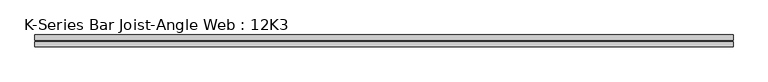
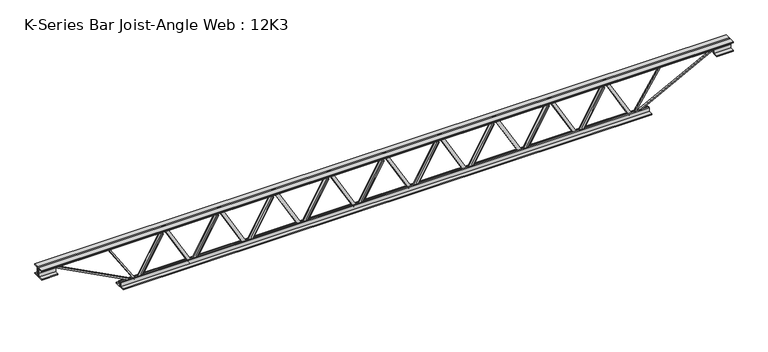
"""IFC4 building model written with IfcOpenShell, lengths in millimetres: beam geometry, K-Series Bar Joist-Angle Web : 12K3."""

from ifc_helpers import new_model, si_unit, frame, origin, place, context, project, spatial, polyline, outline, extrude, faceted_brep, source, transform, mapped, element, save


def k_series_bar_joist_angle_web_12k3_cd6388da(model_context):
    return source(origin(), model_context, "Body", "SolidModel", [
        extrude(outline(polyline([(-4.7625, 4.7625), (-4.7625, 0.0), (-17.4625, 0.0), (-17.4625, 4.7625), (-4.7625, 4.7625)])), frame((1173.275908, 0.0, -114.3), z_axis=(-0.49566648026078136, 0.0, 0.8685129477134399), x_axis=(0.0, -1.0, 0.0)), (0.0, 0.0, 1.0), 263.2085113),
        extrude(outline(polyline([(-149.225, 1205.0888889), (-130.175, 1205.0888889), (-130.175, 1204.2699253), (149.225, 1044.8143698), (149.225, 1026.5833333), (130.175, 1026.5833333), (130.175, 1033.7522969), (-149.225, 1193.2078524), (-149.225, 1205.0888889)])), frame((0.0, 0.0, 0.0), z_axis=(0.0, 1.0, 0.0), x_axis=(0.0, 0.0, 1.0)), (0.0, 0.0, 1.0), 4.7625),
        faceted_brep([(860.7777778, 0.0, -130.175), (860.7777778, 0.0, -149.225), (860.7777778, -4.7625, -149.225), (860.7777778, -4.7625, -130.175), (861.5967413, 0.0, -130.175), (1021.0522969, 0.0, 149.225), (1039.2833333, 0.0, 149.225), (1039.2833333, 0.0, 130.175), (1032.1143698, 0.0, 130.175), (872.6588142, 0.0, -149.225), (872.6588142, -4.7625, -149.225), (892.5907587, -4.7625, -114.3), (888.4544658, -4.7625, -111.9393884), (1018.9181021, -4.7625, 116.6606116), (1023.054395, -4.7625, 114.3), (1032.1143698, -4.7625, 130.175), (1039.2833333, -4.7625, 130.175), (1039.2833333, -4.7625, 149.225), (1021.0522969, -4.7625, 149.225), (861.5967413, -4.7625, -130.175), (1023.054395, -17.4625, 114.3), (892.5907587, -17.4625, -114.3), (888.4544658, -17.4625, -111.9393884), (1018.9181021, -17.4625, 116.6606116)], [[[0, 1, 2, 3]], [[1, 0, 4, 5, 6, 7, 8, 9]], [[2, 1, 9, 10]], [[3, 2, 10, 11, 12, 13, 14, 15, 16, 17, 18, 19]], [[0, 3, 19, 4]], [[9, 8, 15, 14, 20, 21, 11, 10]], [[5, 4, 19, 18]], [[7, 6, 17, 16]], [[8, 7, 16, 15]], [[6, 5, 18, 17]], [[21, 22, 12, 11]], [[20, 14, 13, 23]], [[22, 21, 20, 23]], [[12, 22, 23, 13]]]),
        extrude(outline(polyline([(-4.7625, 4.7625), (-4.7625, 0.0), (-17.4625, 0.0), (-17.4625, 4.7625), (-4.7625, 4.7625)])), frame((828.9647969, 0.0, -114.3), z_axis=(-0.49566648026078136, 0.0, 0.8685129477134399), x_axis=(0.0, -1.0, 0.0)), (0.0, 0.0, 1.0), 263.2085113),
        extrude(outline(polyline([(-149.225, 860.7777778), (-130.175, 860.7777778), (-130.175, 859.9588142), (149.225, 700.5032587), (149.225, 682.2722222), (130.175, 682.2722222), (130.175, 689.4411858), (-149.225, 848.8967413), (-149.225, 860.7777778)])), frame((0.0, 0.0, 0.0), z_axis=(0.0, 1.0, 0.0), x_axis=(0.0, 0.0, 1.0)), (0.0, 0.0, 1.0), 4.7625),
        faceted_brep([(516.4666667, 0.0, -130.175), (516.4666667, 0.0, -149.225), (516.4666667, -4.7625, -149.225), (516.4666667, -4.7625, -130.175), (517.2856302, 0.0, -130.175), (676.7411858, 0.0, 149.225), (694.9722222, 0.0, 149.225), (694.9722222, 0.0, 130.175), (687.8032587, 0.0, 130.175), (528.3477031, 0.0, -149.225), (528.3477031, -4.7625, -149.225), (548.2796476, -4.7625, -114.3), (544.1433547, -4.7625, -111.9393884), (674.606991, -4.7625, 116.6606116), (678.7432839, -4.7625, 114.3), (687.8032587, -4.7625, 130.175), (694.9722222, -4.7625, 130.175), (694.9722222, -4.7625, 149.225), (676.7411858, -4.7625, 149.225), (517.2856302, -4.7625, -130.175), (678.7432839, -17.4625, 114.3), (548.2796476, -17.4625, -114.3), (544.1433547, -17.4625, -111.9393884), (674.606991, -17.4625, 116.6606116)], [[[0, 1, 2, 3]], [[1, 0, 4, 5, 6, 7, 8, 9]], [[2, 1, 9, 10]], [[3, 2, 10, 11, 12, 13, 14, 15, 16, 17, 18, 19]], [[0, 3, 19, 4]], [[9, 8, 15, 14, 20, 21, 11, 10]], [[5, 4, 19, 18]], [[7, 6, 17, 16]], [[8, 7, 16, 15]], [[6, 5, 18, 17]], [[21, 22, 12, 11]], [[20, 14, 13, 23]], [[22, 21, 20, 23]], [[12, 22, 23, 13]]]),
        extrude(outline(polyline([(-4.7625, 4.7625), (-4.7625, 0.0), (-17.4625, 0.0), (-17.4625, 4.7625), (-4.7625, 4.7625)])), frame((484.6536858, 0.0, -114.3), z_axis=(-0.49566648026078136, 0.0, 0.8685129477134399), x_axis=(0.0, -1.0, 0.0)), (0.0, 0.0, 1.0), 263.2085113),
        extrude(outline(polyline([(-149.225, 516.4666667), (-130.175, 516.4666667), (-130.175, 515.6477031), (149.225, 356.1921476), (149.225, 337.9611111), (130.175, 337.9611111), (130.175, 345.1300747), (-149.225, 504.5856302), (-149.225, 516.4666667)])), frame((0.0, 0.0, 0.0), z_axis=(0.0, 1.0, 0.0), x_axis=(0.0, 0.0, 1.0)), (0.0, 0.0, 1.0), 4.7625),
        faceted_brep([(172.1555556, 0.0, -130.175), (172.1555556, 0.0, -149.225), (172.1555556, -4.7625, -149.225), (172.1555556, -4.7625, -130.175), (172.9745191, 0.0, -130.175), (332.4300747, 0.0, 149.225), (350.6611111, 0.0, 149.225), (350.6611111, 0.0, 130.175), (343.4921476, 0.0, 130.175), (184.036592, 0.0, -149.225), (184.036592, -4.7625, -149.225), (203.9685365, -4.7625, -114.3), (199.8322435, -4.7625, -111.9393884), (330.2958799, -4.7625, 116.6606116), (334.4321728, -4.7625, 114.3), (343.4921476, -4.7625, 130.175), (350.6611111, -4.7625, 130.175), (350.6611111, -4.7625, 149.225), (332.4300747, -4.7625, 149.225), (172.9745191, -4.7625, -130.175), (334.4321728, -17.4625, 114.3), (203.9685365, -17.4625, -114.3), (199.8322435, -17.4625, -111.9393884), (330.2958799, -17.4625, 116.6606116)], [[[0, 1, 2, 3]], [[1, 0, 4, 5, 6, 7, 8, 9]], [[2, 1, 9, 10]], [[3, 2, 10, 11, 12, 13, 14, 15, 16, 17, 18, 19]], [[0, 3, 19, 4]], [[9, 8, 15, 14, 20, 21, 11, 10]], [[5, 4, 19, 18]], [[7, 6, 17, 16]], [[8, 7, 16, 15]], [[6, 5, 18, 17]], [[21, 22, 12, 11]], [[20, 14, 13, 23]], [[22, 21, 20, 23]], [[12, 22, 23, 13]]]),
        extrude(outline(polyline([(-4.7625, 4.7625), (-4.7625, 0.0), (-17.4625, 0.0), (-17.4625, 4.7625), (-4.7625, 4.7625)])), frame((140.3425747, 0.0, -114.3), z_axis=(-0.49566648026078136, 0.0, 0.8685129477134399), x_axis=(0.0, -1.0, 0.0)), (0.0, 0.0, 1.0), 263.2085113),
        extrude(outline(polyline([(-149.225, 172.1555556), (-130.175, 172.1555556), (-130.175, 171.336592), (149.225, 11.8810365), (149.225, -6.35), (130.175, -6.35), (130.175, 0.8189635), (-149.225, 160.2745191), (-149.225, 172.1555556)])), frame((0.0, 0.0, 0.0), z_axis=(0.0, 1.0, 0.0), x_axis=(0.0, 0.0, 1.0)), (0.0, 0.0, 1.0), 4.7625),
        faceted_brep([(-172.1555556, 0.0, -130.175), (-172.1555556, 0.0, -149.225), (-172.1555556, -4.7625, -149.225), (-172.1555556, -4.7625, -130.175), (-171.336592, 0.0, -130.175), (-11.8810365, 0.0, 149.225), (6.35, 0.0, 149.225), (6.35, 0.0, 130.175), (-0.8189635, 0.0, 130.175), (-160.2745191, 0.0, -149.225), (-160.2745191, -4.7625, -149.225), (-140.3425747, -4.7625, -114.3), (-144.4788676, -4.7625, -111.9393884), (-14.0152312, -4.7625, 116.6606116), (-9.8789383, -4.7625, 114.3), (-0.8189635, -4.7625, 130.175), (6.35, -4.7625, 130.175), (6.35, -4.7625, 149.225), (-11.8810365, -4.7625, 149.225), (-171.336592, -4.7625, -130.175), (-9.8789383, -17.4625, 114.3), (-140.3425747, -17.4625, -114.3), (-144.4788676, -17.4625, -111.9393884), (-14.0152312, -17.4625, 116.6606116)], [[[0, 1, 2, 3]], [[1, 0, 4, 5, 6, 7, 8, 9]], [[2, 1, 9, 10]], [[3, 2, 10, 11, 12, 13, 14, 15, 16, 17, 18, 19]], [[0, 3, 19, 4]], [[9, 8, 15, 14, 20, 21, 11, 10]], [[5, 4, 19, 18]], [[7, 6, 17, 16]], [[8, 7, 16, 15]], [[6, 5, 18, 17]], [[21, 22, 12, 11]], [[20, 14, 13, 23]], [[22, 21, 20, 23]], [[12, 22, 23, 13]]]),
        extrude(outline(polyline([(-4.7625, 4.7625001), (-4.7625, 0.0), (-17.4625, 0.0), (-17.4625, 4.7625001), (-4.7625, 4.7625001)])), frame((-203.9685365, 0.0, -114.3), z_axis=(-0.49566648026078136, 0.0, 0.8685129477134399), x_axis=(0.0, -1.0, 0.0)), (0.0, 0.0, 1.0), 263.2085113),
        extrude(outline(polyline([(-149.225, -172.1555556), (-130.175, -172.1555556), (-130.175, -172.9745191), (149.225, -332.4300747), (149.225, -350.6611111), (130.175, -350.6611111), (130.175, -343.4921476), (-149.225, -184.036592), (-149.225, -172.1555556)])), frame((0.0, 0.0, 0.0), z_axis=(0.0, 1.0, 0.0), x_axis=(0.0, 0.0, 1.0)), (0.0, 0.0, 1.0), 4.7625),
        faceted_brep([(-516.4666667, 0.0, -130.175), (-516.4666667, 0.0, -149.225), (-516.4666667, -4.7625, -149.225), (-516.4666667, -4.7625, -130.175), (-515.6477031, 0.0, -130.175), (-356.1921476, 0.0, 149.225), (-337.9611111, 0.0, 149.225), (-337.9611111, 0.0, 130.175), (-345.1300747, 0.0, 130.175), (-504.5856302, 0.0, -149.225), (-504.5856302, -4.7625, -149.225), (-484.6536858, -4.7625, -114.3), (-488.7899787, -4.7625, -111.9393884), (-358.3263423, -4.7625, 116.6606116), (-354.1900494, -4.7625, 114.3), (-345.1300747, -4.7625, 130.175), (-337.9611111, -4.7625, 130.175), (-337.9611111, -4.7625, 149.225), (-356.1921476, -4.7625, 149.225), (-515.6477031, -4.7625, -130.175), (-354.1900494, -17.4625, 114.3), (-484.6536858, -17.4625, -114.3), (-488.7899787, -17.4625, -111.9393884), (-358.3263423, -17.4625, 116.6606116)], [[[0, 1, 2, 3]], [[1, 0, 4, 5, 6, 7, 8, 9]], [[2, 1, 9, 10]], [[3, 2, 10, 11, 12, 13, 14, 15, 16, 17, 18, 19]], [[0, 3, 19, 4]], [[9, 8, 15, 14, 20, 21, 11, 10]], [[5, 4, 19, 18]], [[7, 6, 17, 16]], [[8, 7, 16, 15]], [[6, 5, 18, 17]], [[21, 22, 12, 11]], [[20, 14, 13, 23]], [[22, 21, 20, 23]], [[12, 22, 23, 13]]]),
        extrude(outline(polyline([(-4.7625, 4.7625), (-4.7625, 0.0), (-17.4625, 0.0), (-17.4625, 4.7625), (-4.7625, 4.7625)])), frame((-548.2796476, 0.0, -114.3), z_axis=(-0.49566648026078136, 0.0, 0.8685129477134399), x_axis=(0.0, -1.0, 0.0)), (0.0, 0.0, 1.0), 263.2085113),
        extrude(outline(polyline([(-149.225, -516.4666667), (-130.175, -516.4666667), (-130.175, -517.2856302), (149.225, -676.7411858), (149.225, -694.9722222), (130.175, -694.9722222), (130.175, -687.8032587), (-149.225, -528.3477031), (-149.225, -516.4666667)])), frame((0.0, 0.0, 0.0), z_axis=(0.0, 1.0, 0.0), x_axis=(0.0, 0.0, 1.0)), (0.0, 0.0, 1.0), 4.7625),
        faceted_brep([(-860.7777778, 0.0, -130.175), (-860.7777778, 0.0, -149.225), (-860.7777778, -4.7625, -149.225), (-860.7777778, -4.7625, -130.175), (-859.9588142, 0.0, -130.175), (-700.5032587, 0.0, 149.225), (-682.2722222, 0.0, 149.225), (-682.2722222, 0.0, 130.175), (-689.4411858, 0.0, 130.175), (-848.8967413, 0.0, -149.225), (-848.8967413, -4.7625, -149.225), (-828.9647969, -4.7625, -114.3), (-833.1010898, -4.7625, -111.9393884), (-702.6374534, -4.7625, 116.6606116), (-698.5011605, -4.7625, 114.3), (-689.4411858, -4.7625, 130.175), (-682.2722222, -4.7625, 130.175), (-682.2722222, -4.7625, 149.225), (-700.5032587, -4.7625, 149.225), (-859.9588142, -4.7625, -130.175), (-698.5011605, -17.4625, 114.3), (-828.9647969, -17.4625, -114.3), (-833.1010898, -17.4625, -111.9393884), (-702.6374534, -17.4625, 116.6606116)], [[[0, 1, 2, 3]], [[1, 0, 4, 5, 6, 7, 8, 9]], [[2, 1, 9, 10]], [[3, 2, 10, 11, 12, 13, 14, 15, 16, 17, 18, 19]], [[0, 3, 19, 4]], [[9, 8, 15, 14, 20, 21, 11, 10]], [[5, 4, 19, 18]], [[7, 6, 17, 16]], [[8, 7, 16, 15]], [[6, 5, 18, 17]], [[21, 22, 12, 11]], [[20, 14, 13, 23]], [[22, 21, 20, 23]], [[12, 22, 23, 13]]]),
        extrude(outline(polyline([(-4.7625, 4.7625), (-4.7625, 0.0), (-17.4625, 0.0), (-17.4625, 4.7625), (-4.7625, 4.7625)])), frame((-892.5907587, 0.0, -114.3), z_axis=(-0.49566648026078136, 0.0, 0.8685129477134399), x_axis=(0.0, -1.0, 0.0)), (0.0, 0.0, 1.0), 263.2085113),
        extrude(outline(polyline([(-149.225, -860.7777778), (-130.175, -860.7777778), (-130.175, -861.5967413), (149.225, -1021.0522969), (149.225, -1039.2833333), (130.175, -1039.2833333), (130.175, -1032.1143698), (-149.225, -872.6588142), (-149.225, -860.7777778)])), frame((0.0, 0.0, 0.0), z_axis=(0.0, 1.0, 0.0), x_axis=(0.0, 0.0, 1.0)), (0.0, 0.0, 1.0), 4.7625),
        faceted_brep([(-1205.0888889, 0.0, -130.175), (-1205.0888889, 0.0, -149.225), (-1205.0888889, -4.7625, -149.225), (-1205.0888889, -4.7625, -130.175), (-1204.2699253, 0.0, -130.175), (-1044.8143698, 0.0, 149.225), (-1026.5833333, 0.0, 149.225), (-1026.5833333, 0.0, 130.175), (-1033.7522969, 0.0, 130.175), (-1193.2078524, 0.0, -149.225), (-1193.2078524, -4.7625, -149.225), (-1173.275908, -4.7625, -114.3), (-1177.4122009, -4.7625, -111.9393884), (-1046.9485645, -4.7625, 116.6606116), (-1042.8122716, -4.7625, 114.3), (-1033.7522969, -4.7625, 130.175), (-1026.5833333, -4.7625, 130.175), (-1026.5833333, -4.7625, 149.225), (-1044.8143698, -4.7625, 149.225), (-1204.2699253, -4.7625, -130.175), (-1042.8122716, -17.4625, 114.3), (-1173.275908, -17.4625, -114.3), (-1177.4122009, -17.4625, -111.9393884), (-1046.9485645, -17.4625, 116.6606116)], [[[0, 1, 2, 3]], [[1, 0, 4, 5, 6, 7, 8, 9]], [[2, 1, 9, 10]], [[3, 2, 10, 11, 12, 13, 14, 15, 16, 17, 18, 19]], [[0, 3, 19, 4]], [[9, 8, 15, 14, 20, 21, 11, 10]], [[5, 4, 19, 18]], [[7, 6, 17, 16]], [[8, 7, 16, 15]], [[6, 5, 18, 17]], [[21, 22, 12, 11]], [[20, 14, 13, 23]], [[22, 21, 20, 23]], [[12, 22, 23, 13]]]),
        extrude(outline(polyline([(-4.7625, 4.7625), (-4.7625, 0.0), (-17.4625, 0.0), (-17.4625, 4.7625), (-4.7625, 4.7625)])), frame((1517.5870191, 0.0, -114.3), z_axis=(-0.49566648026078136, 0.0, 0.8685129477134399), x_axis=(0.0, -1.0, 0.0)), (0.0, 0.0, 1.0), 263.2085113),
        extrude(outline(polyline([(-149.225, 1549.4), (-130.175, 1549.4), (-130.175, 1548.5810365), (149.225, 1389.1254809), (149.225, 1370.8944444), (130.175, 1370.8944444), (130.175, 1378.063408), (-149.225, 1537.5189635), (-149.225, 1549.4)])), frame((0.0, 0.0, 0.0), z_axis=(0.0, 1.0, 0.0), x_axis=(0.0, 0.0, 1.0)), (0.0, 0.0, 1.0), 4.7625),
        faceted_brep([(1205.0888889, 0.0, -130.175), (1205.0888889, 0.0, -149.225), (1205.0888889, -4.7625, -149.225), (1205.0888889, -4.7625, -130.175), (1205.9078524, 0.0, -130.175), (1365.363408, 0.0, 149.225), (1383.5944444, 0.0, 149.225), (1383.5944444, 0.0, 130.175), (1376.4254809, 0.0, 130.175), (1216.9699253, 0.0, -149.225), (1216.9699253, -4.7625, -149.225), (1236.9018698, -4.7625, -114.3), (1232.7655769, -4.7625, -111.9393884), (1363.2292132, -4.7625, 116.6606116), (1367.3655062, -4.7625, 114.3), (1376.4254809, -4.7625, 130.175), (1383.5944444, -4.7625, 130.175), (1383.5944444, -4.7625, 149.225), (1365.363408, -4.7625, 149.225), (1205.9078524, -4.7625, -130.175), (1367.3655062, -17.4625, 114.3), (1236.9018698, -17.4625, -114.3), (1232.7655769, -17.4625, -111.9393884), (1363.2292132, -17.4625, 116.6606116)], [[[0, 1, 2, 3]], [[1, 0, 4, 5, 6, 7, 8, 9]], [[2, 1, 9, 10]], [[3, 2, 10, 11, 12, 13, 14, 15, 16, 17, 18, 19]], [[0, 3, 19, 4]], [[9, 8, 15, 14, 20, 21, 11, 10]], [[5, 4, 19, 18]], [[7, 6, 17, 16]], [[8, 7, 16, 15]], [[6, 5, 18, 17]], [[21, 22, 12, 11]], [[20, 14, 13, 23]], [[22, 21, 20, 23]], [[12, 22, 23, 13]]]),
        extrude(outline(polyline([(-4.7625, 4.7625), (-4.7625, 0.0), (-17.4625, 0.0), (-17.4625, 4.7625), (-4.7625, 4.7625)])), frame((-1236.9018698, 0.0, -114.3), z_axis=(-0.49566648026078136, 0.0, 0.8685129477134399), x_axis=(0.0, -1.0, 0.0)), (0.0, 0.0, 1.0), 263.2085113),
        extrude(outline(polyline([(-149.225, -1205.0888889), (-130.175, -1205.0888889), (-130.175, -1205.9078524), (149.225, -1365.363408), (149.225, -1383.5944444), (130.175, -1383.5944444), (130.175, -1376.4254809), (-149.225, -1216.9699253), (-149.225, -1205.0888889)])), frame((0.0, 0.0, 0.0), z_axis=(0.0, 1.0, 0.0), x_axis=(0.0, 0.0, 1.0)), (0.0, 0.0, 1.0), 4.7625),
        faceted_brep([(-1549.4, 0.0, -130.175), (-1549.4, 0.0, -149.225), (-1549.4, -4.7625, -149.225), (-1549.4, -4.7625, -130.175), (-1548.5810365, 0.0, -130.175), (-1389.1254809, 0.0, 149.225), (-1370.8944444, 0.0, 149.225), (-1370.8944444, 0.0, 130.175), (-1378.063408, 0.0, 130.175), (-1537.5189635, 0.0, -149.225), (-1537.5189635, -4.7625, -149.225), (-1517.5870191, -4.7625, -114.3), (-1521.723312, -4.7625, -111.9393884), (-1391.2596757, -4.7625, 116.6606116), (-1387.1233827, -4.7625, 114.3), (-1378.063408, -4.7625, 130.175), (-1370.8944444, -4.7625, 130.175), (-1370.8944444, -4.7625, 149.225), (-1389.1254809, -4.7625, 149.225), (-1548.5810365, -4.7625, -130.175), (-1387.1233827, -17.4625, 114.3), (-1517.5870191, -17.4625, -114.3), (-1521.723312, -17.4625, -111.9393884), (-1391.2596757, -17.4625, 116.6606116)], [[[0, 1, 2, 3]], [[1, 0, 4, 5, 6, 7, 8, 9]], [[2, 1, 9, 10]], [[3, 2, 10, 11, 12, 13, 14, 15, 16, 17, 18, 19]], [[0, 3, 19, 4]], [[9, 8, 15, 14, 20, 21, 11, 10]], [[5, 4, 19, 18]], [[7, 6, 17, 16]], [[8, 7, 16, 15]], [[6, 5, 18, 17]], [[21, 22, 12, 11]], [[20, 14, 13, 23]], [[22, 21, 20, 23]], [[12, 22, 23, 13]]]),
        extrude(outline(polyline([(4.7625, 152.4), (36.5125, 152.4), (36.5125, 146.05), (11.1125, 146.05), (11.1125, 120.65), (4.7625, 120.65), (4.7625, 152.4)])), frame((-2159.0, 0.0, 0.0), z_axis=(1.0, 0.0, 0.0), x_axis=(0.0, 1.0, 0.0)), (0.0, 0.0, 1.0), 4318.0),
        extrude(outline(polyline([(-4.7625, 152.4), (-4.7625, 120.65), (-11.1125, 120.65), (-11.1125, 146.05), (-36.5125, 146.05), (-36.5125, 152.4), (-4.7625, 152.4)])), frame((-2159.0, 0.0, 0.0), z_axis=(1.0, 0.0, 0.0), x_axis=(0.0, 1.0, 0.0)), (0.0, 0.0, 1.0), 4318.0),
        extrude(outline(polyline([(-4.7625, 88.9), (-36.5125, 88.9), (-36.5125, 95.25), (-11.1125, 95.25), (-11.1125, 120.65), (-4.7625, 120.65), (-4.7625, 88.9)])), frame((-2159.0, 0.0, 0.0), z_axis=(1.0, 0.0, 0.0), x_axis=(0.0, 1.0, 0.0)), (0.0, 0.0, 1.0), 101.6),
        extrude(outline(polyline([(36.5125, 88.9), (4.7625, 88.9), (4.7625, 120.65), (11.1125, 120.65), (11.1125, 95.25), (36.5125, 95.25), (36.5125, 88.9)])), frame((-2159.0, 0.0, 0.0), z_axis=(1.0, 0.0, 0.0), x_axis=(0.0, 1.0, 0.0)), (0.0, 0.0, 1.0), 101.6),
        extrude(outline(polyline([(4.7625, 88.9), (4.7625, 120.65), (11.1125, 120.65), (11.1125, 95.25), (36.5125, 95.25), (36.5125, 88.9), (4.7625, 88.9)])), frame((2057.4, 0.0, 0.0), z_axis=(1.0, 0.0, 0.0), x_axis=(0.0, 1.0, 0.0)), (0.0, 0.0, 1.0), 101.6),
        extrude(outline(polyline([(-4.7625, 88.9), (-36.5125, 88.9), (-36.5125, 95.25), (-11.1125, 95.25), (-11.1125, 120.65), (-4.7625, 120.65), (-4.7625, 88.9)])), frame((2057.4, 0.0, 0.0), z_axis=(1.0, 0.0, 0.0), x_axis=(0.0, 1.0, 0.0)), (0.0, 0.0, 1.0), 101.6),
        extrude(outline(polyline([(4.7625, -152.4), (4.7625, -120.65), (11.1125, -120.65), (11.1125, -146.05), (36.5125, -146.05), (36.5125, -152.4), (4.7625, -152.4)])), frame((-1651.0, 0.0, 0.0), z_axis=(1.0, 0.0, 0.0), x_axis=(0.0, 1.0, 0.0)), (0.0, 0.0, 1.0), 3302.0),
        extrude(outline(polyline([(-4.7625, -152.4), (-36.5125, -152.4), (-36.5125, -146.05), (-11.1125, -146.05), (-11.1125, -120.65), (-4.7625, -120.65), (-4.7625, -152.4)])), frame((-1651.0, 0.0, 0.0), z_axis=(1.0, 0.0, 0.0), x_axis=(0.0, 1.0, 0.0)), (0.0, 0.0, 1.0), 3302.0),
        extrude(outline(polyline([(4.7625, 4.7625001), (4.7625, -4.7625001), (-4.7625, -4.7625001), (-4.7625, 4.7625001), (4.7625, 4.7625001)])), frame((1549.4, 0.0, -146.05), z_axis=(0.5423293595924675, 0.0, 0.8401659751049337), x_axis=(0.0, -1.0, 0.0)), (0.0, 0.0, 1.0), 317.4372778),
        extrude(outline(polyline([(4.7625, 4.7625001), (4.7625, -4.7625001), (-4.7625, -4.7625001), (-4.7625, 4.7625001), (4.7625, 4.7625001)])), frame((-1549.4, 0.0, -146.05), z_axis=(-0.5423293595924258, 0.0, 0.8401659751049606), x_axis=(0.0, -1.0, 0.0)), (0.0, 0.0, 1.0), 317.4372778),
        extrude(outline(polyline([(0.0, -9.525), (0.0, 0.0), (573.7533355, 0.0), (573.7533355, -9.525), (0.0, -9.525)])), frame((2059.6137714, -4.7625, 116.4332925), z_axis=(-0.464833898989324, 0.0, 0.8853979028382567), x_axis=(-0.8853979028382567, 0.0, -0.464833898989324)), (0.0, 0.0, 1.0), 9.525),
        extrude(outline(polyline([(0.0, -9.525), (0.0, 0.0), (573.7533355, 0.0), (573.7533355, -9.525), (0.0, -9.525)])), frame((-2059.6137714, 4.7625, 116.4332925), z_axis=(0.46483389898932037, 0.0, 0.8853979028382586), x_axis=(0.8853979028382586, 0.0, -0.46483389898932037)), (0.0, 0.0, 1.0), 9.525),
    ])


if __name__ == "__main__":
    model = new_model("IFC4")
    model_context = context("Model", 3, world=origin())
    ifc_project = project(units=[si_unit("LENGTHUNIT", "METRE", prefix="MILLI")], contexts=[model_context])
    site = spatial("IfcSite", under=ifc_project)
    building = spatial("IfcBuilding", under=site)
    placement = place(None, origin())
    k_series_bar_joist_angle_web_12k3_shape = k_series_bar_joist_angle_web_12k3_cd6388da(model_context)
    element("IfcBeam", 1, ObjectType="K-Series Bar Joist-Angle Web : 12K3", at=placement, inside=building, context=model_context, shape_type="MappedRepresentation", body=[
        mapped(k_series_bar_joist_angle_web_12k3_shape, transform((0.0, 0.0, 0.0), x_axis=(1.0, 0.0, 0.0), y_axis=(0.0, 1.0, 0.0), z_axis=(0.0, 0.0, 1.0))),
    ])
    save(model, "model.ifc")
